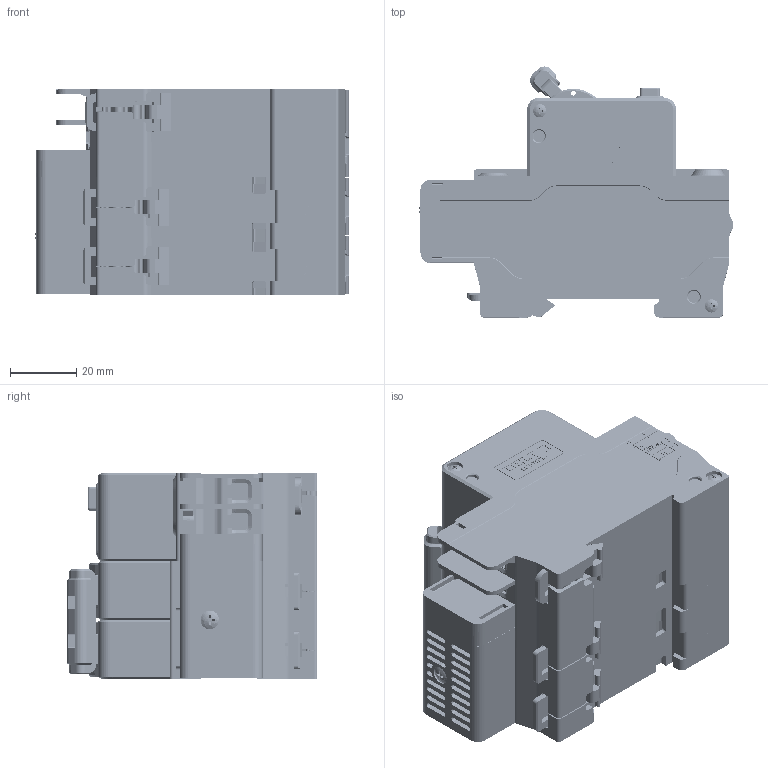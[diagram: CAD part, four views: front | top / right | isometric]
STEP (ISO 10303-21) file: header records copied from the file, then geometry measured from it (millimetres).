
FILE_DESCRIPTION((''),'2;1');
FILE_NAME('CDBHLE_2P_32_22530062_SW0001','2019-12-23T',('dong.huang'),(''),'PRO/ENGINEER BY PARAMETRIC TECHNOLOGY CORPORATION, 2015440','PRO/ENGINEER BY PARAMETRIC TECHNOLOGY CORPORATION, 2015440','');
FILE_SCHEMA(('CONFIG_CONTROL_DESIGN'));
Products named in the file (1): CDBHLE_2P_32_22530062_SW0001
Bounding box: 94.38 x 75.51 x 61.8 mm (x, y, z)
Volume: 213667.8 mm3; surface area: 85307.2 mm2
Topology: 4 solids, 23 shells, 8566 faces, 23984 edges, 15701 vertices
Faces by surface type: plane 5789, cylinder 1606, extrusion 690, cone 283, torus 90, sphere 63, bspline 45
Entity records: 279875 total; most frequent: CARTESIAN_POINT 59810, ORIENTED_EDGE 47836, DIRECTION 42275, EDGE_CURVE 23918, VECTOR 18635, LINE 17945, VERTEX_POINT 15701, AXIS2_PLACEMENT_3D 11820
